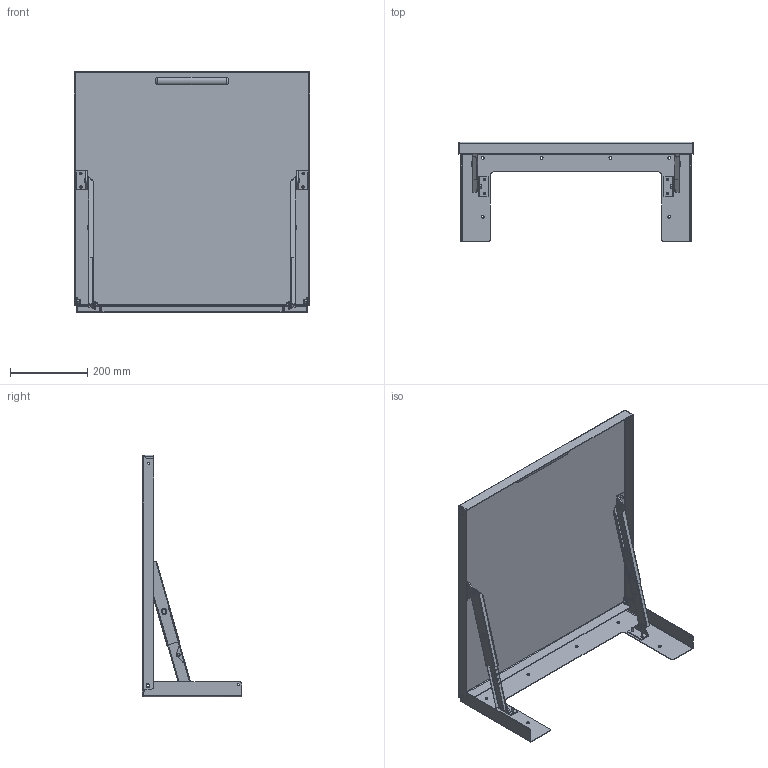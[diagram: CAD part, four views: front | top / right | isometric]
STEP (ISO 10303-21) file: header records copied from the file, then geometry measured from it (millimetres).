
FILE_DESCRIPTION (( 'STEP AP203' ), '1' );
FILE_NAME ('aashlf2424.STEP', '2013-03-28T15:40:16', ( 'User' ), ( 'Pentair Inc' ), 'SwSTEP 2.0', 'SolidWorks 2010', '' );
FILE_SCHEMA (( 'CONFIG_CONTROL_DESIGN' ));
Length unit declared in the file: inch
Products named in the file (15): 99411975_99411975; 99401230; aashlf2424; 87939595; 87939596; 87939586; 87939587; 99404181; 87576347; 87950256_extended engaged left; 87950256_extended engaged right; 87950259; 87950258; 87950257; 22101011
Assembly tree (36 placements, depth 3):
  aashlf2424
    87939586
      87939587
      99404181  x4
    87939595
      87939596
      99404181  x4
    87576347  x2
    87950256_extended engaged left
      99411975_99411975  x2
      87950259  x2
      99401230  x2
      87950258
      22101011  x2
      87950257
    87950256_extended engaged right
      99401230  x2
      22101011  x2
      99411975_99411975  x2
      87950259  x2
      87950258
      87950257
Bounding box: 609.62 x 257.35 x 625.78 mm (x, y, z)
Volume: 1110606.2 mm3; surface area: 1233148.1 mm2
Topology: 56 solids, 56 shells, 1312 faces, 2982 edges, 1814 vertices
Faces by surface type: cylinder 476, plane 456, cone 304, torus 62, bspline 14
Entity records: 21208 total; most frequent: CARTESIAN_POINT 5747, DIRECTION 2842, ORIENTED_EDGE 2674, EDGE_CURVE 1337, AXIS2_PLACEMENT_3D 1086, VERTEX_POINT 823, VECTOR 670, LINE 670
